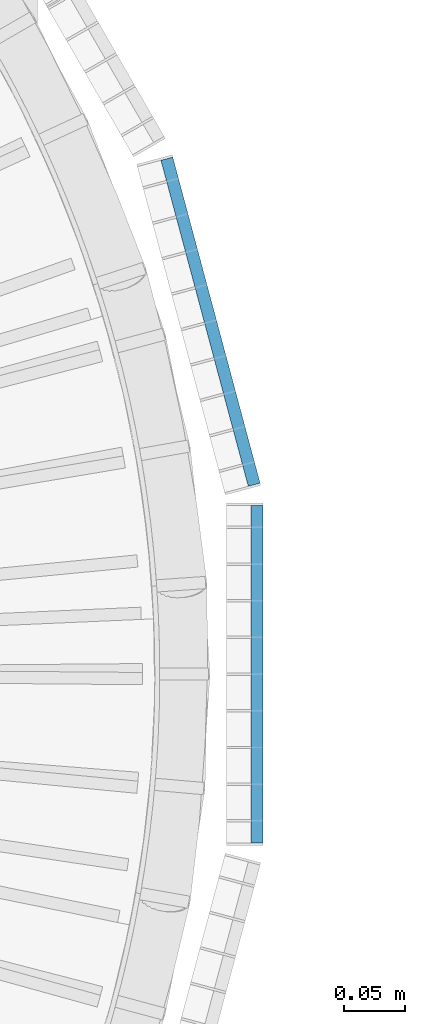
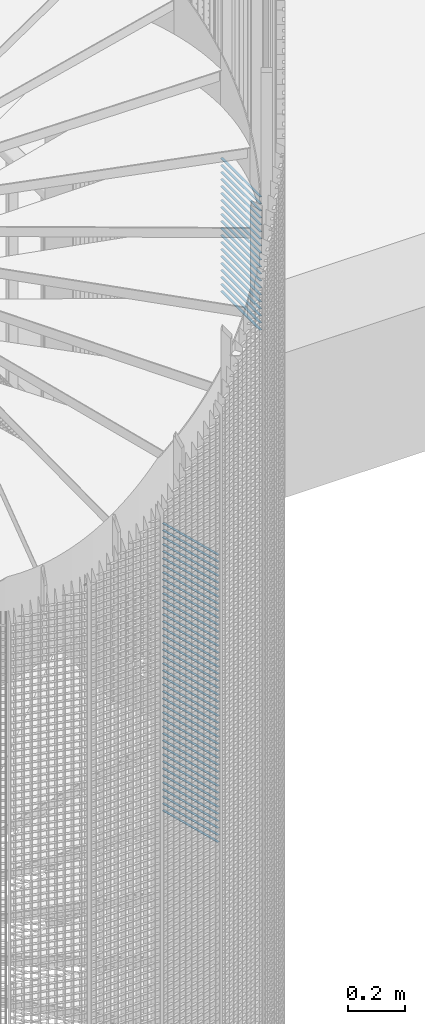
# One storey, part 283 of 1148: 62 beams, 2 elements without a shape of their own.
"""IFC2X3 building model written with IfcOpenShell, lengths in millimetres."""

from ifc_helpers import new_model, si_unit, frame, origin_with_axes, origin_2d_with_axis, place, context, subcontext, project, spatial, rectangle, extrude, material, type_object, element, aggregate, save


model = new_model("IFC2X3")

# Units and contexts
model_context = context("Model", 3, precision=1e-05, world=origin_with_axes())
body_context = subcontext(model_context, "Body", "Model", "MODEL_VIEW")
ifc_project = project(units=[si_unit("LENGTHUNIT", "METRE", prefix="MILLI"), si_unit("AREAUNIT", "SQUARE_METRE"), si_unit("VOLUMEUNIT", "CUBIC_METRE"), si_unit("MASSUNIT", "GRAM", prefix="KILO"), si_unit("TIMEUNIT", "SECOND"), si_unit("PLANEANGLEUNIT", "RADIAN"), si_unit("SOLIDANGLEUNIT", "STERADIAN"), si_unit("THERMODYNAMICTEMPERATUREUNIT", "DEGREE_CELSIUS"), si_unit("LUMINOUSINTENSITYUNIT", "LUMEN")], contexts=[model_context])

# Site, building, storey
site_placement = place(None, origin_with_axes())
site = spatial("IfcSite", under=ifc_project, at=site_placement, Name="Undefined", CompositionType="ELEMENT")
building_placement = place(site_placement, origin_with_axes())
building = spatial("IfcBuilding", under=site, at=building_placement, Name="Undefined", CompositionType="ELEMENT")
storey_placement = place(building_placement, origin_with_axes())
storey = spatial("IfcBuildingStorey", under=building, at=storey_placement, Name="Undefined", CompositionType="ELEMENT", Elevation=0.0)

# Assembly, beams
assembly_1_placement = place(storey_placement, origin_with_axes())
assembly_1 = element("IfcElementAssembly", 1, at=assembly_1_placement, inside=storey, Name="BORDURE", AssemblyPlace="NOTDEFINED", PredefinedType="NOTDEFINED")
ifc_material = material(Name="STEEL/S235JR")
beam_type = type_object("IfcBeamType", Name="PL2*10", PredefinedType="NOTDEFINED")
beam_1_placement = place(assembly_1_placement, frame((1111.25508286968, 154.895926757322, 7260.0), z_axis=(0.965925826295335, 0.258819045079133, 0.0), x_axis=(-0.258819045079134, 0.965925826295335, 0.0)))
beam_1 = element("IfcBeam", 2, at=beam_1_placement, type_object=beam_type, material=ifc_material, Name="ENTRETOISE", context=body_context, shape_type="SweptSolid", body=[
    extrude(rectangle(XDim=2.0, YDim=10.0, at=origin_2d_with_axis()), frame((275.999999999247, 9.09494701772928e-13, 1.53210777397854e-14), z_axis=(-1.0, 0.0, 0.0), x_axis=(0.0, -1.0, 0.0)), (0.0, 0.0, 1.0), 276.0),
])
beam_2_placement = place(assembly_1_placement, frame((1111.25508286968, 154.895926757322, 7230.0), z_axis=(0.965925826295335, 0.258819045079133, 0.0), x_axis=(-0.258819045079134, 0.965925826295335, 0.0)))
beam_2 = element("IfcBeam", 3, at=beam_2_placement, type_object=beam_type, material=ifc_material, Name="ENTRETOISE", context=body_context, shape_type="SweptSolid", body=[
    extrude(rectangle(XDim=2.0, YDim=10.0, at=origin_2d_with_axis()), frame((275.999999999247, 9.09494701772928e-13, 1.53210777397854e-14), z_axis=(-1.0, 0.0, 0.0), x_axis=(0.0, -1.0, 0.0)), (0.0, 0.0, 1.0), 276.0),
])
beam_3_placement = place(assembly_1_placement, frame((1111.25508286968, 154.895926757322, 7200.0), z_axis=(0.965925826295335, 0.258819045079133, 0.0), x_axis=(-0.258819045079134, 0.965925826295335, 0.0)))
beam_3 = element("IfcBeam", 4, at=beam_3_placement, type_object=beam_type, material=ifc_material, Name="ENTRETOISE", context=body_context, shape_type="SweptSolid", body=[
    extrude(rectangle(XDim=2.0, YDim=10.0, at=origin_2d_with_axis()), frame((275.999999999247, 9.09494701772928e-13, 1.53210777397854e-14), z_axis=(-1.0, 0.0, 0.0), x_axis=(0.0, -1.0, 0.0)), (0.0, 0.0, 1.0), 276.0),
])
beam_4_placement = place(assembly_1_placement, frame((1111.25508286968, 154.895926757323, 7170.0), z_axis=(0.965925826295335, 0.258819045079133, 0.0), x_axis=(-0.258819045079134, 0.965925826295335, 0.0)))
beam_4 = element("IfcBeam", 5, at=beam_4_placement, type_object=beam_type, material=ifc_material, Name="ENTRETOISE", context=body_context, shape_type="SweptSolid", body=[
    extrude(rectangle(XDim=2.0, YDim=10.0, at=origin_2d_with_axis()), frame((275.999999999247, 9.09494701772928e-13, 1.53210777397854e-14), z_axis=(-1.0, 0.0, 0.0), x_axis=(0.0, -1.0, 0.0)), (0.0, 0.0, 1.0), 276.0),
])
beam_5_placement = place(assembly_1_placement, frame((1111.25508286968, 154.895926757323, 7140.0), z_axis=(0.965925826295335, 0.258819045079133, 0.0), x_axis=(-0.258819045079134, 0.965925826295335, 0.0)))
beam_5 = element("IfcBeam", 6, at=beam_5_placement, type_object=beam_type, material=ifc_material, Name="ENTRETOISE", context=body_context, shape_type="SweptSolid", body=[
    extrude(rectangle(XDim=2.0, YDim=10.0, at=origin_2d_with_axis()), frame((275.999999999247, 9.09494701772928e-13, 1.53210777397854e-14), z_axis=(-1.0, 0.0, 0.0), x_axis=(0.0, -1.0, 0.0)), (0.0, 0.0, 1.0), 276.0),
])
beam_6_placement = place(assembly_1_placement, frame((1111.25508286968, 154.895926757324, 6720.0), z_axis=(0.965925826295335, 0.258819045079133, 0.0), x_axis=(-0.258819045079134, 0.965925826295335, 0.0)))
beam_6 = element("IfcBeam", 7, at=beam_6_placement, type_object=beam_type, material=ifc_material, Name="ENTRETOISE", context=body_context, shape_type="SweptSolid", body=[
    extrude(rectangle(XDim=2.0, YDim=10.0, at=origin_2d_with_axis()), frame((275.999999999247, 9.09494701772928e-13, 1.53210777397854e-14), z_axis=(-1.0, 0.0, 0.0), x_axis=(0.0, -1.0, 0.0)), (0.0, 0.0, 1.0), 276.0),
])
beam_7_placement = place(assembly_1_placement, frame((1111.25508286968, 154.895926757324, 6690.0), z_axis=(0.965925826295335, 0.258819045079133, 0.0), x_axis=(-0.258819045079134, 0.965925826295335, 0.0)))
beam_7 = element("IfcBeam", 8, at=beam_7_placement, type_object=beam_type, material=ifc_material, Name="ENTRETOISE", context=body_context, shape_type="SweptSolid", body=[
    extrude(rectangle(XDim=2.0, YDim=10.0, at=origin_2d_with_axis()), frame((275.999999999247, 9.09494701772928e-13, 1.53210777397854e-14), z_axis=(-1.0, 0.0, 0.0), x_axis=(0.0, -1.0, 0.0)), (0.0, 0.0, 1.0), 276.0),
])
beam_8_placement = place(assembly_1_placement, frame((1111.25508286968, 154.895926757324, 6750.0), z_axis=(0.965925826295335, 0.258819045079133, 0.0), x_axis=(-0.258819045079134, 0.965925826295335, 0.0)))
beam_8 = element("IfcBeam", 9, at=beam_8_placement, type_object=beam_type, material=ifc_material, Name="ENTRETOISE", context=body_context, shape_type="SweptSolid", body=[
    extrude(rectangle(XDim=2.0, YDim=10.0, at=origin_2d_with_axis()), frame((275.999999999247, 9.09494701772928e-13, 1.53210777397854e-14), z_axis=(-1.0, 0.0, 0.0), x_axis=(0.0, -1.0, 0.0)), (0.0, 0.0, 1.0), 276.0),
])
beam_9_placement = place(assembly_1_placement, frame((1111.25508286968, 154.895926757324, 6660.0), z_axis=(0.965925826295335, 0.258819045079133, 0.0), x_axis=(-0.258819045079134, 0.965925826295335, 0.0)))
beam_9 = element("IfcBeam", 10, at=beam_9_placement, type_object=beam_type, material=ifc_material, Name="ENTRETOISE", context=body_context, shape_type="SweptSolid", body=[
    extrude(rectangle(XDim=2.0, YDim=10.0, at=origin_2d_with_axis()), frame((275.999999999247, 9.09494701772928e-13, 1.53210777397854e-14), z_axis=(-1.0, 0.0, 0.0), x_axis=(0.0, -1.0, 0.0)), (0.0, 0.0, 1.0), 276.0),
])
beam_10_placement = place(assembly_1_placement, frame((1111.25508286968, 154.895926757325, 6630.0), z_axis=(0.965925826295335, 0.258819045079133, 0.0), x_axis=(-0.258819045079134, 0.965925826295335, 0.0)))
beam_10 = element("IfcBeam", 11, at=beam_10_placement, type_object=beam_type, material=ifc_material, Name="ENTRETOISE", context=body_context, shape_type="SweptSolid", body=[
    extrude(rectangle(XDim=2.0, YDim=10.0, at=origin_2d_with_axis()), frame((275.999999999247, 9.09494701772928e-13, 1.53210777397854e-14), z_axis=(-1.0, 0.0, 0.0), x_axis=(0.0, -1.0, 0.0)), (0.0, 0.0, 1.0), 276.0),
])
beam_11_placement = place(assembly_1_placement, frame((1111.25508286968, 154.895926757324, 6780.0), z_axis=(0.965925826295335, 0.258819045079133, 0.0), x_axis=(-0.258819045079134, 0.965925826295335, 0.0)))
beam_11 = element("IfcBeam", 12, at=beam_11_placement, type_object=beam_type, material=ifc_material, Name="ENTRETOISE", context=body_context, shape_type="SweptSolid", body=[
    extrude(rectangle(XDim=2.0, YDim=10.0, at=origin_2d_with_axis()), frame((275.999999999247, 9.09494701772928e-13, 1.53210777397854e-14), z_axis=(-1.0, 0.0, 0.0), x_axis=(0.0, -1.0, 0.0)), (0.0, 0.0, 1.0), 276.0),
])
beam_12_placement = place(assembly_1_placement, frame((1111.25508286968, 154.895926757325, 6600.0), z_axis=(0.965925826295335, 0.258819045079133, 0.0), x_axis=(-0.258819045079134, 0.965925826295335, 0.0)))
beam_12 = element("IfcBeam", 13, at=beam_12_placement, type_object=beam_type, material=ifc_material, Name="ENTRETOISE", context=body_context, shape_type="SweptSolid", body=[
    extrude(rectangle(XDim=2.0, YDim=10.0, at=origin_2d_with_axis()), frame((275.999999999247, 9.09494701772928e-13, 1.53210777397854e-14), z_axis=(-1.0, 0.0, 0.0), x_axis=(0.0, -1.0, 0.0)), (0.0, 0.0, 1.0), 276.0),
])
beam_13_placement = place(assembly_1_placement, frame((1111.25508286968, 154.895926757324, 6810.0), z_axis=(0.965925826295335, 0.258819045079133, 0.0), x_axis=(-0.258819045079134, 0.965925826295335, 0.0)))
beam_13 = element("IfcBeam", 14, at=beam_13_placement, type_object=beam_type, material=ifc_material, Name="ENTRETOISE", context=body_context, shape_type="SweptSolid", body=[
    extrude(rectangle(XDim=2.0, YDim=10.0, at=origin_2d_with_axis()), frame((275.999999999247, 9.09494701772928e-13, 1.53210777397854e-14), z_axis=(-1.0, 0.0, 0.0), x_axis=(0.0, -1.0, 0.0)), (0.0, 0.0, 1.0), 276.0),
])
beam_14_placement = place(assembly_1_placement, frame((1111.25508286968, 154.895926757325, 6570.0), z_axis=(0.965925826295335, 0.258819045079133, 0.0), x_axis=(-0.258819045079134, 0.965925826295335, 0.0)))
beam_14 = element("IfcBeam", 15, at=beam_14_placement, type_object=beam_type, material=ifc_material, Name="ENTRETOISE", context=body_context, shape_type="SweptSolid", body=[
    extrude(rectangle(XDim=2.0, YDim=10.0, at=origin_2d_with_axis()), frame((275.999999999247, 9.09494701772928e-13, 1.53210777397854e-14), z_axis=(-1.0, 0.0, 0.0), x_axis=(0.0, -1.0, 0.0)), (0.0, 0.0, 1.0), 276.0),
])
beam_15_placement = place(assembly_1_placement, frame((1111.25508286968, 154.895926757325, 6540.0), z_axis=(0.965925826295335, 0.258819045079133, 0.0), x_axis=(-0.258819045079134, 0.965925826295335, 0.0)))
beam_15 = element("IfcBeam", 16, at=beam_15_placement, type_object=beam_type, material=ifc_material, Name="ENTRETOISE", context=body_context, shape_type="SweptSolid", body=[
    extrude(rectangle(XDim=2.0, YDim=10.0, at=origin_2d_with_axis()), frame((275.999999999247, 9.09494701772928e-13, 1.53210777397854e-14), z_axis=(-1.0, 0.0, 0.0), x_axis=(0.0, -1.0, 0.0)), (0.0, 0.0, 1.0), 276.0),
])
beam_16_placement = place(assembly_1_placement, frame((1111.25508286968, 154.895926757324, 6840.0), z_axis=(0.965925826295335, 0.258819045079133, 0.0), x_axis=(-0.258819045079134, 0.965925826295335, 0.0)))
beam_16 = element("IfcBeam", 17, at=beam_16_placement, type_object=beam_type, material=ifc_material, Name="ENTRETOISE", context=body_context, shape_type="SweptSolid", body=[
    extrude(rectangle(XDim=2.0, YDim=10.0, at=origin_2d_with_axis()), frame((275.999999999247, 9.09494701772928e-13, 1.53210777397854e-14), z_axis=(-1.0, 0.0, 0.0), x_axis=(0.0, -1.0, 0.0)), (0.0, 0.0, 1.0), 276.0),
])
beam_17_placement = place(assembly_1_placement, frame((1111.25508286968, 154.895926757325, 6510.0), z_axis=(0.965925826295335, 0.258819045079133, 0.0), x_axis=(-0.258819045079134, 0.965925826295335, 0.0)))
beam_17 = element("IfcBeam", 18, at=beam_17_placement, type_object=beam_type, material=ifc_material, Name="ENTRETOISE", context=body_context, shape_type="SweptSolid", body=[
    extrude(rectangle(XDim=2.0, YDim=10.0, at=origin_2d_with_axis()), frame((275.999999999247, 9.09494701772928e-13, 1.53210777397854e-14), z_axis=(-1.0, 0.0, 0.0), x_axis=(0.0, -1.0, 0.0)), (0.0, 0.0, 1.0), 276.0),
])
beam_18_placement = place(assembly_1_placement, frame((1111.25508286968, 154.895926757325, 6480.0), z_axis=(0.965925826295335, 0.258819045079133, 0.0), x_axis=(-0.258819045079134, 0.965925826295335, 0.0)))
beam_18 = element("IfcBeam", 19, at=beam_18_placement, type_object=beam_type, material=ifc_material, Name="ENTRETOISE", context=body_context, shape_type="SweptSolid", body=[
    extrude(rectangle(XDim=2.0, YDim=10.0, at=origin_2d_with_axis()), frame((275.999999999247, 9.09494701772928e-13, 1.53210777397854e-14), z_axis=(-1.0, 0.0, 0.0), x_axis=(0.0, -1.0, 0.0)), (0.0, 0.0, 1.0), 276.0),
])
beam_19_placement = place(assembly_1_placement, frame((1111.25508286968, 154.895926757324, 6870.0), z_axis=(0.965925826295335, 0.258819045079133, 0.0), x_axis=(-0.258819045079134, 0.965925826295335, 0.0)))
beam_19 = element("IfcBeam", 20, at=beam_19_placement, type_object=beam_type, material=ifc_material, Name="ENTRETOISE", context=body_context, shape_type="SweptSolid", body=[
    extrude(rectangle(XDim=2.0, YDim=10.0, at=origin_2d_with_axis()), frame((275.999999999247, 9.09494701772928e-13, 1.53210777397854e-14), z_axis=(-1.0, 0.0, 0.0), x_axis=(0.0, -1.0, 0.0)), (0.0, 0.0, 1.0), 276.0),
])
beam_20_placement = place(assembly_1_placement, frame((1111.25508286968, 154.895926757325, 6450.0), z_axis=(0.965925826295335, 0.258819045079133, 0.0), x_axis=(-0.258819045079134, 0.965925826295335, 0.0)))
beam_20 = element("IfcBeam", 21, at=beam_20_placement, type_object=beam_type, material=ifc_material, Name="ENTRETOISE", context=body_context, shape_type="SweptSolid", body=[
    extrude(rectangle(XDim=2.0, YDim=10.0, at=origin_2d_with_axis()), frame((275.999999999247, 9.09494701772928e-13, 1.53210777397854e-14), z_axis=(-1.0, 0.0, 0.0), x_axis=(0.0, -1.0, 0.0)), (0.0, 0.0, 1.0), 276.0),
])
beam_21_placement = place(assembly_1_placement, frame((1111.25508286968, 154.895926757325, 6420.0), z_axis=(0.965925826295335, 0.258819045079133, 0.0), x_axis=(-0.258819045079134, 0.965925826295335, 0.0)))
beam_21 = element("IfcBeam", 22, at=beam_21_placement, type_object=beam_type, material=ifc_material, Name="ENTRETOISE", context=body_context, shape_type="SweptSolid", body=[
    extrude(rectangle(XDim=2.0, YDim=10.0, at=origin_2d_with_axis()), frame((275.999999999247, 9.09494701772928e-13, 1.53210777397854e-14), z_axis=(-1.0, 0.0, 0.0), x_axis=(0.0, -1.0, 0.0)), (0.0, 0.0, 1.0), 276.0),
])
beam_22_placement = place(assembly_1_placement, frame((1111.25508286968, 154.895926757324, 6900.0), z_axis=(0.965925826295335, 0.258819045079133, 0.0), x_axis=(-0.258819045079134, 0.965925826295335, 0.0)))
beam_22 = element("IfcBeam", 23, at=beam_22_placement, type_object=beam_type, material=ifc_material, Name="ENTRETOISE", context=body_context, shape_type="SweptSolid", body=[
    extrude(rectangle(XDim=2.0, YDim=10.0, at=origin_2d_with_axis()), frame((275.999999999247, 9.09494701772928e-13, 1.53210777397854e-14), z_axis=(-1.0, 0.0, 0.0), x_axis=(0.0, -1.0, 0.0)), (0.0, 0.0, 1.0), 276.0),
])
beam_23_placement = place(assembly_1_placement, frame((1111.25508286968, 154.895926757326, 6390.0), z_axis=(0.965925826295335, 0.258819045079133, 0.0), x_axis=(-0.258819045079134, 0.965925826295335, 0.0)))
beam_23 = element("IfcBeam", 24, at=beam_23_placement, type_object=beam_type, material=ifc_material, Name="ENTRETOISE", context=body_context, shape_type="SweptSolid", body=[
    extrude(rectangle(XDim=2.0, YDim=10.0, at=origin_2d_with_axis()), frame((275.999999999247, 9.09494701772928e-13, 1.53210777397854e-14), z_axis=(-1.0, 0.0, 0.0), x_axis=(0.0, -1.0, 0.0)), (0.0, 0.0, 1.0), 276.0),
])
beam_24_placement = place(assembly_1_placement, frame((1111.25508286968, 154.895926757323, 6930.0), z_axis=(0.965925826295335, 0.258819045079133, 0.0), x_axis=(-0.258819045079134, 0.965925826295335, 0.0)))
beam_24 = element("IfcBeam", 25, at=beam_24_placement, type_object=beam_type, material=ifc_material, Name="ENTRETOISE", context=body_context, shape_type="SweptSolid", body=[
    extrude(rectangle(XDim=2.0, YDim=10.0, at=origin_2d_with_axis()), frame((275.999999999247, 9.09494701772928e-13, 1.53210777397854e-14), z_axis=(-1.0, 0.0, 0.0), x_axis=(0.0, -1.0, 0.0)), (0.0, 0.0, 1.0), 276.0),
])
beam_25_placement = place(assembly_1_placement, frame((1111.25508286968, 154.895926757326, 6360.0), z_axis=(0.965925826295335, 0.258819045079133, 0.0), x_axis=(-0.258819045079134, 0.965925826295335, 0.0)))
beam_25 = element("IfcBeam", 26, at=beam_25_placement, type_object=beam_type, material=ifc_material, Name="ENTRETOISE", context=body_context, shape_type="SweptSolid", body=[
    extrude(rectangle(XDim=2.0, YDim=10.0, at=origin_2d_with_axis()), frame((275.999999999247, 9.09494701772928e-13, 1.53210777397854e-14), z_axis=(-1.0, 0.0, 0.0), x_axis=(0.0, -1.0, 0.0)), (0.0, 0.0, 1.0), 276.0),
])
beam_26_placement = place(assembly_1_placement, frame((1111.25508286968, 154.895926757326, 6330.0), z_axis=(0.965925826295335, 0.258819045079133, 0.0), x_axis=(-0.258819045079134, 0.965925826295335, 0.0)))
beam_26 = element("IfcBeam", 27, at=beam_26_placement, type_object=beam_type, material=ifc_material, Name="ENTRETOISE", context=body_context, shape_type="SweptSolid", body=[
    extrude(rectangle(XDim=2.0, YDim=10.0, at=origin_2d_with_axis()), frame((275.999999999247, 9.09494701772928e-13, 1.53210777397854e-14), z_axis=(-1.0, 0.0, 0.0), x_axis=(0.0, -1.0, 0.0)), (0.0, 0.0, 1.0), 276.0),
])
beam_27_placement = place(assembly_1_placement, frame((1111.25508286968, 154.895926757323, 6960.0), z_axis=(0.965925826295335, 0.258819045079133, 0.0), x_axis=(-0.258819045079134, 0.965925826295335, 0.0)))
beam_27 = element("IfcBeam", 28, at=beam_27_placement, type_object=beam_type, material=ifc_material, Name="ENTRETOISE", context=body_context, shape_type="SweptSolid", body=[
    extrude(rectangle(XDim=2.0, YDim=10.0, at=origin_2d_with_axis()), frame((275.999999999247, 9.09494701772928e-13, 1.53210777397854e-14), z_axis=(-1.0, 0.0, 0.0), x_axis=(0.0, -1.0, 0.0)), (0.0, 0.0, 1.0), 276.0),
])
beam_28_placement = place(assembly_1_placement, frame((1111.25508286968, 154.895926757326, 6300.0), z_axis=(0.965925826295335, 0.258819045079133, 0.0), x_axis=(-0.258819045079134, 0.965925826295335, 0.0)))
beam_28 = element("IfcBeam", 29, at=beam_28_placement, type_object=beam_type, material=ifc_material, Name="ENTRETOISE", context=body_context, shape_type="SweptSolid", body=[
    extrude(rectangle(XDim=2.0, YDim=10.0, at=origin_2d_with_axis()), frame((275.999999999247, 9.09494701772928e-13, 1.53210777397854e-14), z_axis=(-1.0, 0.0, 0.0), x_axis=(0.0, -1.0, 0.0)), (0.0, 0.0, 1.0), 276.0),
])
beam_29_placement = place(assembly_1_placement, frame((1111.25508286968, 154.895926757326, 6270.0), z_axis=(0.965925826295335, 0.258819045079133, 0.0), x_axis=(-0.258819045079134, 0.965925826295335, 0.0)))
beam_29 = element("IfcBeam", 30, at=beam_29_placement, type_object=beam_type, material=ifc_material, Name="ENTRETOISE", context=body_context, shape_type="SweptSolid", body=[
    extrude(rectangle(XDim=2.0, YDim=10.0, at=origin_2d_with_axis()), frame((275.999999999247, 9.09494701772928e-13, 1.53210777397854e-14), z_axis=(-1.0, 0.0, 0.0), x_axis=(0.0, -1.0, 0.0)), (0.0, 0.0, 1.0), 276.0),
])
beam_30_placement = place(assembly_1_placement, frame((1111.25508286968, 154.895926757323, 6990.0), z_axis=(0.965925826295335, 0.258819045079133, 0.0), x_axis=(-0.258819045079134, 0.965925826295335, 0.0)))
beam_30 = element("IfcBeam", 31, at=beam_30_placement, type_object=beam_type, material=ifc_material, Name="ENTRETOISE", context=body_context, shape_type="SweptSolid", body=[
    extrude(rectangle(XDim=2.0, YDim=10.0, at=origin_2d_with_axis()), frame((275.999999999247, 9.09494701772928e-13, 1.53210777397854e-14), z_axis=(-1.0, 0.0, 0.0), x_axis=(0.0, -1.0, 0.0)), (0.0, 0.0, 1.0), 276.0),
])
beam_31_placement = place(assembly_1_placement, frame((1111.25508286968, 154.895926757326, 6240.0), z_axis=(0.965925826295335, 0.258819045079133, 0.0), x_axis=(-0.258819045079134, 0.965925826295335, 0.0)))
beam_31 = element("IfcBeam", 32, at=beam_31_placement, type_object=beam_type, material=ifc_material, Name="ENTRETOISE", context=body_context, shape_type="SweptSolid", body=[
    extrude(rectangle(XDim=2.0, YDim=10.0, at=origin_2d_with_axis()), frame((275.999999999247, 9.09494701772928e-13, 1.53210777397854e-14), z_axis=(-1.0, 0.0, 0.0), x_axis=(0.0, -1.0, 0.0)), (0.0, 0.0, 1.0), 276.0),
])
beam_32_placement = place(assembly_1_placement, frame((1111.25508286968, 154.895926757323, 7020.0), z_axis=(0.965925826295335, 0.258819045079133, 0.0), x_axis=(-0.258819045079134, 0.965925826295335, 0.0)))
beam_32 = element("IfcBeam", 33, at=beam_32_placement, type_object=beam_type, material=ifc_material, Name="ENTRETOISE", context=body_context, shape_type="SweptSolid", body=[
    extrude(rectangle(XDim=2.0, YDim=10.0, at=origin_2d_with_axis()), frame((275.999999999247, 9.09494701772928e-13, 1.53210777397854e-14), z_axis=(-1.0, 0.0, 0.0), x_axis=(0.0, -1.0, 0.0)), (0.0, 0.0, 1.0), 276.0),
])
beam_33_placement = place(assembly_1_placement, frame((1111.25508286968, 154.895926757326, 6210.0), z_axis=(0.965925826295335, 0.258819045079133, 0.0), x_axis=(-0.258819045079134, 0.965925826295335, 0.0)))
beam_33 = element("IfcBeam", 34, at=beam_33_placement, type_object=beam_type, material=ifc_material, Name="ENTRETOISE", context=body_context, shape_type="SweptSolid", body=[
    extrude(rectangle(XDim=2.0, YDim=10.0, at=origin_2d_with_axis()), frame((275.999999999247, 9.09494701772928e-13, 1.53210777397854e-14), z_axis=(-1.0, 0.0, 0.0), x_axis=(0.0, -1.0, 0.0)), (0.0, 0.0, 1.0), 276.0),
])
beam_34_placement = place(assembly_1_placement, frame((1111.25508286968, 154.895926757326, 6180.0), z_axis=(0.965925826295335, 0.258819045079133, 0.0), x_axis=(-0.258819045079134, 0.965925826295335, 0.0)))
beam_34 = element("IfcBeam", 35, at=beam_34_placement, type_object=beam_type, material=ifc_material, Name="ENTRETOISE", context=body_context, shape_type="SweptSolid", body=[
    extrude(rectangle(XDim=2.0, YDim=10.0, at=origin_2d_with_axis()), frame((275.999999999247, 9.09494701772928e-13, 1.53210777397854e-14), z_axis=(-1.0, 0.0, 0.0), x_axis=(0.0, -1.0, 0.0)), (0.0, 0.0, 1.0), 276.0),
])
beam_35_placement = place(assembly_1_placement, frame((1111.25508286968, 154.895926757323, 7050.0), z_axis=(0.965925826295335, 0.258819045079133, 0.0), x_axis=(-0.258819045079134, 0.965925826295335, 0.0)))
beam_35 = element("IfcBeam", 36, at=beam_35_placement, type_object=beam_type, material=ifc_material, Name="ENTRETOISE", context=body_context, shape_type="SweptSolid", body=[
    extrude(rectangle(XDim=2.0, YDim=10.0, at=origin_2d_with_axis()), frame((275.999999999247, 9.09494701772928e-13, 1.53210777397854e-14), z_axis=(-1.0, 0.0, 0.0), x_axis=(0.0, -1.0, 0.0)), (0.0, 0.0, 1.0), 276.0),
])
beam_36_placement = place(assembly_1_placement, frame((1111.25508286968, 154.895926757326, 6150.0), z_axis=(0.965925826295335, 0.258819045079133, 0.0), x_axis=(-0.258819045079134, 0.965925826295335, 0.0)))
beam_36 = element("IfcBeam", 37, at=beam_36_placement, type_object=beam_type, material=ifc_material, Name="ENTRETOISE", context=body_context, shape_type="SweptSolid", body=[
    extrude(rectangle(XDim=2.0, YDim=10.0, at=origin_2d_with_axis()), frame((275.999999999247, 9.09494701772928e-13, 1.53210777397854e-14), z_axis=(-1.0, 0.0, 0.0), x_axis=(0.0, -1.0, 0.0)), (0.0, 0.0, 1.0), 276.0),
])
beam_37_placement = place(assembly_1_placement, frame((1111.25508286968, 154.895926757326, 6120.0), z_axis=(0.965925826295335, 0.258819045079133, 0.0), x_axis=(-0.258819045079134, 0.965925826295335, 0.0)))
beam_37 = element("IfcBeam", 38, at=beam_37_placement, type_object=beam_type, material=ifc_material, Name="ENTRETOISE", context=body_context, shape_type="SweptSolid", body=[
    extrude(rectangle(XDim=2.0, YDim=10.0, at=origin_2d_with_axis()), frame((275.999999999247, 9.09494701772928e-13, 1.53210777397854e-14), z_axis=(-1.0, 0.0, 0.0), x_axis=(0.0, -1.0, 0.0)), (0.0, 0.0, 1.0), 276.0),
])
beam_38_placement = place(assembly_1_placement, frame((1111.25508286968, 154.895926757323, 7080.0), z_axis=(0.965925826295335, 0.258819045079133, 0.0), x_axis=(-0.258819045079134, 0.965925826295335, 0.0)))
beam_38 = element("IfcBeam", 39, at=beam_38_placement, type_object=beam_type, material=ifc_material, Name="ENTRETOISE", context=body_context, shape_type="SweptSolid", body=[
    extrude(rectangle(XDim=2.0, YDim=10.0, at=origin_2d_with_axis()), frame((275.999999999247, 9.09494701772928e-13, 1.53210777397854e-14), z_axis=(-1.0, 0.0, 0.0), x_axis=(0.0, -1.0, 0.0)), (0.0, 0.0, 1.0), 276.0),
])
beam_39_placement = place(assembly_1_placement, frame((1111.25508286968, 154.895926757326, 6090.0), z_axis=(0.965925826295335, 0.258819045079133, 0.0), x_axis=(-0.258819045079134, 0.965925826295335, 0.0)))
beam_39 = element("IfcBeam", 40, at=beam_39_placement, type_object=beam_type, material=ifc_material, Name="ENTRETOISE", context=body_context, shape_type="SweptSolid", body=[
    extrude(rectangle(XDim=2.0, YDim=10.0, at=origin_2d_with_axis()), frame((275.999999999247, 9.09494701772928e-13, 1.53210777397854e-14), z_axis=(-1.0, 0.0, 0.0), x_axis=(0.0, -1.0, 0.0)), (0.0, 0.0, 1.0), 276.0),
])
beam_40_placement = place(assembly_1_placement, frame((1111.25508286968, 154.895926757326, 6060.0), z_axis=(0.965925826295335, 0.258819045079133, 0.0), x_axis=(-0.258819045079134, 0.965925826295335, 0.0)))
beam_40 = element("IfcBeam", 41, at=beam_40_placement, type_object=beam_type, material=ifc_material, Name="ENTRETOISE", context=body_context, shape_type="SweptSolid", body=[
    extrude(rectangle(XDim=2.0, YDim=10.0, at=origin_2d_with_axis()), frame((275.999999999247, 9.09494701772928e-13, 1.53210777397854e-14), z_axis=(-1.0, 0.0, 0.0), x_axis=(0.0, -1.0, 0.0)), (0.0, 0.0, 1.0), 276.0),
])
beam_41_placement = place(assembly_1_placement, frame((1111.25508286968, 154.895926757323, 7110.0), z_axis=(0.965925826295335, 0.258819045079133, 0.0), x_axis=(-0.258819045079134, 0.965925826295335, 0.0)))
beam_41 = element("IfcBeam", 42, at=beam_41_placement, type_object=beam_type, material=ifc_material, Name="ENTRETOISE", context=body_context, shape_type="SweptSolid", body=[
    extrude(rectangle(XDim=2.0, YDim=10.0, at=origin_2d_with_axis()), frame((275.999999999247, 9.09494701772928e-13, 1.53210777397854e-14), z_axis=(-1.0, 0.0, 0.0), x_axis=(0.0, -1.0, 0.0)), (0.0, 0.0, 1.0), 276.0),
])
beam_42_placement = place(assembly_1_placement, frame((1111.25508286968, 154.895926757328, 6030.0), z_axis=(0.965925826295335, 0.258819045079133, 0.0), x_axis=(-0.258819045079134, 0.965925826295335, 0.0)))
beam_42 = element("IfcBeam", 43, at=beam_42_placement, type_object=beam_type, material=ifc_material, Name="ENTRETOISE", context=body_context, shape_type="SweptSolid", body=[
    extrude(rectangle(XDim=2.0, YDim=10.0, at=origin_2d_with_axis()), frame((275.999999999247, 9.09494701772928e-13, 1.53210777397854e-14), z_axis=(-1.0, 0.0, 0.0), x_axis=(0.0, -1.0, 0.0)), (0.0, 0.0, 1.0), 276.0),
])
aggregate(assembly_1, [beam_1, beam_2, beam_3, beam_4, beam_5, beam_6, beam_7, beam_8, beam_9, beam_10, beam_11, beam_12, beam_13, beam_14, beam_15, beam_16, beam_17, beam_18, beam_19, beam_20, beam_21, beam_22, beam_23, beam_24, beam_25, beam_26, beam_27, beam_28, beam_29, beam_30, beam_31, beam_32, beam_33, beam_34, beam_35, beam_36, beam_37, beam_38, beam_39, beam_40, beam_41, beam_42])

assembly_2_placement = place(storey_placement, origin_with_axes())
assembly_2 = element("IfcElementAssembly", 44, at=assembly_2_placement, inside=storey, Name="BORDURE", AssemblyPlace="NOTDEFINED", PredefinedType="NOTDEFINED")
beam_43_placement = place(assembly_2_placement, frame((1113.47999999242, -137.996003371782, 8970.0), z_axis=(1.0, 0.0, 0.0), x_axis=(0.0, 1.0, 0.0)))
beam_43 = element("IfcBeam", 45, at=beam_43_placement, type_object=beam_type, material=ifc_material, Name="ENTRETOISE", context=body_context, shape_type="SweptSolid", body=[
    extrude(rectangle(XDim=2.0, YDim=10.0, at=origin_2d_with_axis()), frame((275.999999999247, 9.09494701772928e-13, 1.53210777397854e-14), z_axis=(-1.0, 0.0, 0.0), x_axis=(0.0, -1.0, 0.0)), (0.0, 0.0, 1.0), 276.0),
])
beam_44_placement = place(assembly_2_placement, frame((1113.47999999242, -137.996003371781, 8940.0), z_axis=(1.0, 0.0, 0.0), x_axis=(0.0, 1.0, 0.0)))
beam_44 = element("IfcBeam", 46, at=beam_44_placement, type_object=beam_type, material=ifc_material, Name="ENTRETOISE", context=body_context, shape_type="SweptSolid", body=[
    extrude(rectangle(XDim=2.0, YDim=10.0, at=origin_2d_with_axis()), frame((275.999999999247, 9.09494701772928e-13, 1.53210777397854e-14), z_axis=(-1.0, 0.0, 0.0), x_axis=(0.0, -1.0, 0.0)), (0.0, 0.0, 1.0), 276.0),
])
beam_45_placement = place(assembly_2_placement, frame((1113.47999999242, -137.996003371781, 8910.0), z_axis=(1.0, 0.0, 0.0), x_axis=(0.0, 1.0, 0.0)))
beam_45 = element("IfcBeam", 47, at=beam_45_placement, type_object=beam_type, material=ifc_material, Name="ENTRETOISE", context=body_context, shape_type="SweptSolid", body=[
    extrude(rectangle(XDim=2.0, YDim=10.0, at=origin_2d_with_axis()), frame((275.999999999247, 9.09494701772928e-13, 1.53210777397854e-14), z_axis=(-1.0, 0.0, 0.0), x_axis=(0.0, -1.0, 0.0)), (0.0, 0.0, 1.0), 276.0),
])
beam_46_placement = place(assembly_2_placement, frame((1113.47999999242, -137.996003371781, 8880.0), z_axis=(1.0, 0.0, 0.0), x_axis=(0.0, 1.0, 0.0)))
beam_46 = element("IfcBeam", 48, at=beam_46_placement, type_object=beam_type, material=ifc_material, Name="ENTRETOISE", context=body_context, shape_type="SweptSolid", body=[
    extrude(rectangle(XDim=2.0, YDim=10.0, at=origin_2d_with_axis()), frame((275.999999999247, 9.09494701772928e-13, 1.53210777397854e-14), z_axis=(-1.0, 0.0, 0.0), x_axis=(0.0, -1.0, 0.0)), (0.0, 0.0, 1.0), 276.0),
])
beam_47_placement = place(assembly_2_placement, frame((1113.47999999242, -137.996003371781, 8850.0), z_axis=(1.0, 0.0, 0.0), x_axis=(0.0, 1.0, 0.0)))
beam_47 = element("IfcBeam", 49, at=beam_47_placement, type_object=beam_type, material=ifc_material, Name="ENTRETOISE", context=body_context, shape_type="SweptSolid", body=[
    extrude(rectangle(XDim=2.0, YDim=10.0, at=origin_2d_with_axis()), frame((275.999999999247, 9.09494701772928e-13, 1.53210777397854e-14), z_axis=(-1.0, 0.0, 0.0), x_axis=(0.0, -1.0, 0.0)), (0.0, 0.0, 1.0), 276.0),
])
beam_48_placement = place(assembly_2_placement, frame((1113.47999999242, -137.996003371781, 8820.0), z_axis=(1.0, 0.0, 0.0), x_axis=(0.0, 1.0, 0.0)))
beam_48 = element("IfcBeam", 50, at=beam_48_placement, type_object=beam_type, material=ifc_material, Name="ENTRETOISE", context=body_context, shape_type="SweptSolid", body=[
    extrude(rectangle(XDim=2.0, YDim=10.0, at=origin_2d_with_axis()), frame((275.999999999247, 9.09494701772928e-13, 1.53210777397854e-14), z_axis=(-1.0, 0.0, 0.0), x_axis=(0.0, -1.0, 0.0)), (0.0, 0.0, 1.0), 276.0),
])
beam_49_placement = place(assembly_2_placement, frame((1113.47999999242, -137.996003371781, 8790.0), z_axis=(1.0, 0.0, 0.0), x_axis=(0.0, 1.0, 0.0)))
beam_49 = element("IfcBeam", 51, at=beam_49_placement, type_object=beam_type, material=ifc_material, Name="ENTRETOISE", context=body_context, shape_type="SweptSolid", body=[
    extrude(rectangle(XDim=2.0, YDim=10.0, at=origin_2d_with_axis()), frame((275.999999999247, 9.09494701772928e-13, 1.53210777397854e-14), z_axis=(-1.0, 0.0, 0.0), x_axis=(0.0, -1.0, 0.0)), (0.0, 0.0, 1.0), 276.0),
])
beam_50_placement = place(assembly_2_placement, frame((1113.47999999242, -137.996003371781, 8760.0), z_axis=(1.0, 0.0, 0.0), x_axis=(0.0, 1.0, 0.0)))
beam_50 = element("IfcBeam", 52, at=beam_50_placement, type_object=beam_type, material=ifc_material, Name="ENTRETOISE", context=body_context, shape_type="SweptSolid", body=[
    extrude(rectangle(XDim=2.0, YDim=10.0, at=origin_2d_with_axis()), frame((275.999999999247, 9.09494701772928e-13, 1.53210777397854e-14), z_axis=(-1.0, 0.0, 0.0), x_axis=(0.0, -1.0, 0.0)), (0.0, 0.0, 1.0), 276.0),
])
beam_51_placement = place(assembly_2_placement, frame((1113.47999999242, -137.996003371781, 8730.0), z_axis=(1.0, 0.0, 0.0), x_axis=(0.0, 1.0, 0.0)))
beam_51 = element("IfcBeam", 53, at=beam_51_placement, type_object=beam_type, material=ifc_material, Name="ENTRETOISE", context=body_context, shape_type="SweptSolid", body=[
    extrude(rectangle(XDim=2.0, YDim=10.0, at=origin_2d_with_axis()), frame((275.999999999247, 9.09494701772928e-13, 1.53210777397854e-14), z_axis=(-1.0, 0.0, 0.0), x_axis=(0.0, -1.0, 0.0)), (0.0, 0.0, 1.0), 276.0),
])
beam_52_placement = place(assembly_2_placement, frame((1113.47999999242, -137.996003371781, 8700.0), z_axis=(1.0, 0.0, 0.0), x_axis=(0.0, 1.0, 0.0)))
beam_52 = element("IfcBeam", 54, at=beam_52_placement, type_object=beam_type, material=ifc_material, Name="ENTRETOISE", context=body_context, shape_type="SweptSolid", body=[
    extrude(rectangle(XDim=2.0, YDim=10.0, at=origin_2d_with_axis()), frame((275.999999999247, 9.09494701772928e-13, 1.53210777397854e-14), z_axis=(-1.0, 0.0, 0.0), x_axis=(0.0, -1.0, 0.0)), (0.0, 0.0, 1.0), 276.0),
])
beam_53_placement = place(assembly_2_placement, frame((1113.47999999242, -137.996003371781, 8670.0), z_axis=(1.0, 0.0, 0.0), x_axis=(0.0, 1.0, 0.0)))
beam_53 = element("IfcBeam", 55, at=beam_53_placement, type_object=beam_type, material=ifc_material, Name="ENTRETOISE", context=body_context, shape_type="SweptSolid", body=[
    extrude(rectangle(XDim=2.0, YDim=10.0, at=origin_2d_with_axis()), frame((275.999999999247, 9.09494701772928e-13, 1.53210777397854e-14), z_axis=(-1.0, 0.0, 0.0), x_axis=(0.0, -1.0, 0.0)), (0.0, 0.0, 1.0), 276.0),
])
beam_54_placement = place(assembly_2_placement, frame((1113.47999999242, -137.99600337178, 8640.0), z_axis=(1.0, 0.0, 0.0), x_axis=(0.0, 1.0, 0.0)))
beam_54 = element("IfcBeam", 56, at=beam_54_placement, type_object=beam_type, material=ifc_material, Name="ENTRETOISE", context=body_context, shape_type="SweptSolid", body=[
    extrude(rectangle(XDim=2.0, YDim=10.0, at=origin_2d_with_axis()), frame((275.999999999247, 9.09494701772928e-13, 1.53210777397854e-14), z_axis=(-1.0, 0.0, 0.0), x_axis=(0.0, -1.0, 0.0)), (0.0, 0.0, 1.0), 276.0),
])
beam_55_placement = place(assembly_2_placement, frame((1113.47999999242, -137.99600337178, 8610.0), z_axis=(1.0, 0.0, 0.0), x_axis=(0.0, 1.0, 0.0)))
beam_55 = element("IfcBeam", 57, at=beam_55_placement, type_object=beam_type, material=ifc_material, Name="ENTRETOISE", context=body_context, shape_type="SweptSolid", body=[
    extrude(rectangle(XDim=2.0, YDim=10.0, at=origin_2d_with_axis()), frame((275.999999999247, 9.09494701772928e-13, 1.53210777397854e-14), z_axis=(-1.0, 0.0, 0.0), x_axis=(0.0, -1.0, 0.0)), (0.0, 0.0, 1.0), 276.0),
])
beam_56_placement = place(assembly_2_placement, frame((1113.47999999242, -137.99600337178, 8580.0), z_axis=(1.0, 0.0, 0.0), x_axis=(0.0, 1.0, 0.0)))
beam_56 = element("IfcBeam", 58, at=beam_56_placement, type_object=beam_type, material=ifc_material, Name="ENTRETOISE", context=body_context, shape_type="SweptSolid", body=[
    extrude(rectangle(XDim=2.0, YDim=10.0, at=origin_2d_with_axis()), frame((275.999999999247, 9.09494701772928e-13, 1.53210777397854e-14), z_axis=(-1.0, 0.0, 0.0), x_axis=(0.0, -1.0, 0.0)), (0.0, 0.0, 1.0), 276.0),
])
beam_57_placement = place(assembly_2_placement, frame((1113.47999999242, -137.99600337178, 8550.0), z_axis=(1.0, 0.0, 0.0), x_axis=(0.0, 1.0, 0.0)))
beam_57 = element("IfcBeam", 59, at=beam_57_placement, type_object=beam_type, material=ifc_material, Name="ENTRETOISE", context=body_context, shape_type="SweptSolid", body=[
    extrude(rectangle(XDim=2.0, YDim=10.0, at=origin_2d_with_axis()), frame((275.999999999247, 9.09494701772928e-13, 1.53210777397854e-14), z_axis=(-1.0, 0.0, 0.0), x_axis=(0.0, -1.0, 0.0)), (0.0, 0.0, 1.0), 276.0),
])
beam_58_placement = place(assembly_2_placement, frame((1113.47999999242, -137.99600337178, 8520.0), z_axis=(1.0, 0.0, 0.0), x_axis=(0.0, 1.0, 0.0)))
beam_58 = element("IfcBeam", 60, at=beam_58_placement, type_object=beam_type, material=ifc_material, Name="ENTRETOISE", context=body_context, shape_type="SweptSolid", body=[
    extrude(rectangle(XDim=2.0, YDim=10.0, at=origin_2d_with_axis()), frame((275.999999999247, 9.09494701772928e-13, 1.53210777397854e-14), z_axis=(-1.0, 0.0, 0.0), x_axis=(0.0, -1.0, 0.0)), (0.0, 0.0, 1.0), 276.0),
])
beam_59_placement = place(assembly_2_placement, frame((1113.47999999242, -137.99600337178, 8490.0), z_axis=(1.0, 0.0, 0.0), x_axis=(0.0, 1.0, 0.0)))
beam_59 = element("IfcBeam", 61, at=beam_59_placement, type_object=beam_type, material=ifc_material, Name="ENTRETOISE", context=body_context, shape_type="SweptSolid", body=[
    extrude(rectangle(XDim=2.0, YDim=10.0, at=origin_2d_with_axis()), frame((275.999999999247, 9.09494701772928e-13, 1.53210777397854e-14), z_axis=(-1.0, 0.0, 0.0), x_axis=(0.0, -1.0, 0.0)), (0.0, 0.0, 1.0), 276.0),
])
beam_60_placement = place(assembly_2_placement, frame((1113.47999999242, -137.99600337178, 8460.0), z_axis=(1.0, 0.0, 0.0), x_axis=(0.0, 1.0, 0.0)))
beam_60 = element("IfcBeam", 62, at=beam_60_placement, type_object=beam_type, material=ifc_material, Name="ENTRETOISE", context=body_context, shape_type="SweptSolid", body=[
    extrude(rectangle(XDim=2.0, YDim=10.0, at=origin_2d_with_axis()), frame((275.999999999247, 9.09494701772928e-13, 1.53210777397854e-14), z_axis=(-1.0, 0.0, 0.0), x_axis=(0.0, -1.0, 0.0)), (0.0, 0.0, 1.0), 276.0),
])
beam_61_placement = place(assembly_2_placement, frame((1113.47999999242, -137.99600337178, 8430.0), z_axis=(1.0, 0.0, 0.0), x_axis=(0.0, 1.0, 0.0)))
beam_61 = element("IfcBeam", 63, at=beam_61_placement, type_object=beam_type, material=ifc_material, Name="ENTRETOISE", context=body_context, shape_type="SweptSolid", body=[
    extrude(rectangle(XDim=2.0, YDim=10.0, at=origin_2d_with_axis()), frame((275.999999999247, 9.09494701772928e-13, 1.53210777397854e-14), z_axis=(-1.0, 0.0, 0.0), x_axis=(0.0, -1.0, 0.0)), (0.0, 0.0, 1.0), 276.0),
])
beam_62_placement = place(assembly_2_placement, frame((1113.47999999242, -137.996003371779, 8400.0), z_axis=(1.0, 0.0, 0.0), x_axis=(0.0, 1.0, 0.0)))
beam_62 = element("IfcBeam", 64, at=beam_62_placement, type_object=beam_type, material=ifc_material, Name="ENTRETOISE", context=body_context, shape_type="SweptSolid", body=[
    extrude(rectangle(XDim=2.0, YDim=10.0, at=origin_2d_with_axis()), frame((275.999999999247, 9.09494701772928e-13, 1.53210777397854e-14), z_axis=(-1.0, 0.0, 0.0), x_axis=(0.0, -1.0, 0.0)), (0.0, 0.0, 1.0), 276.0),
])
aggregate(assembly_2, [beam_43, beam_44, beam_45, beam_46, beam_47, beam_48, beam_49, beam_50, beam_51, beam_52, beam_53, beam_54, beam_55, beam_56, beam_57, beam_58, beam_59, beam_60, beam_61, beam_62])

save(model, "model.ifc")
